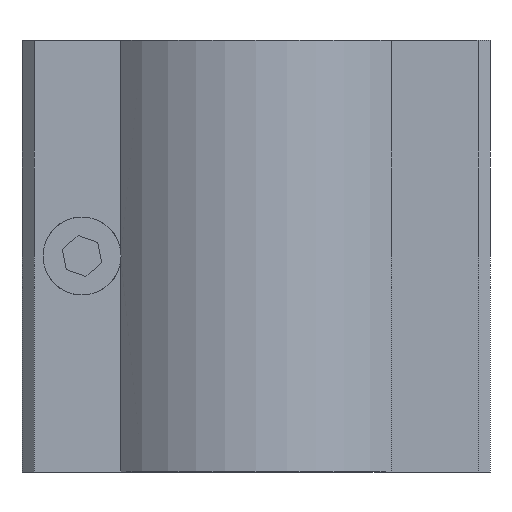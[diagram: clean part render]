
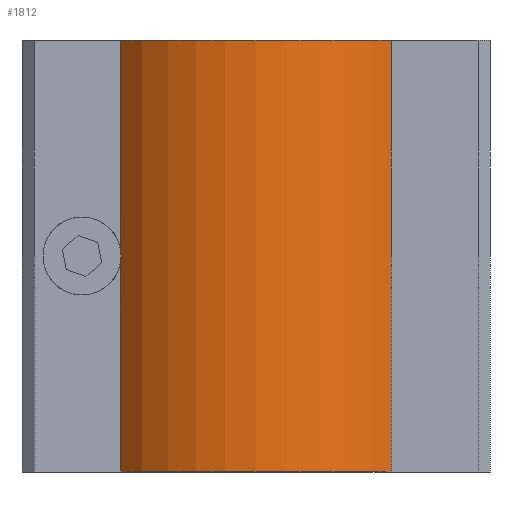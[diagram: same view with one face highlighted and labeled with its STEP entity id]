
A CAD part, front view. The second image highlights one B-rep face of the part: STEP entity #1812.
In plain terms, the highlighted cylindrical face has radius 29.5 mm (diameter 59 mm), a partial arc.
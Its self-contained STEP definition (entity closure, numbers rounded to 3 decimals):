
#679=CARTESIAN_POINT('',(-23.275,-14.802,31.072));
#680=VERTEX_POINT('',#679);
#688=CARTESIAN_POINT('',(-23.209,-14.88,32.));
#689=VERTEX_POINT('',#688);
#690=CARTESIAN_POINT('',(-23.209,-14.88,32.));
#691=CARTESIAN_POINT('',(-23.209,-14.88,31.693));
#692=CARTESIAN_POINT('',(-23.231,-14.854,31.381));
#693=CARTESIAN_POINT('',(-23.275,-14.802,31.072));
#694=B_SPLINE_CURVE_WITH_KNOTS('',3,(#690,#691,#692,#693),.UNSPECIFIED.,.F.,.U.,(4,4),(1.407,1.499),.UNSPECIFIED.);
#695=EDGE_CURVE('',#689,#680,#694,.T.);
#929=CARTESIAN_POINT('',(-23.275,-14.802,32.928));
#930=VERTEX_POINT('',#929);
#931=CARTESIAN_POINT('',(-23.275,-14.802,32.928));
#932=CARTESIAN_POINT('',(-23.231,-14.854,32.619));
#933=CARTESIAN_POINT('',(-23.209,-14.88,32.307));
#934=CARTESIAN_POINT('',(-23.209,-14.88,32.));
#935=B_SPLINE_CURVE_WITH_KNOTS('',3,(#931,#932,#933,#934),.UNSPECIFIED.,.F.,.U.,(4,4),(1.315,1.407),.UNSPECIFIED.);
#936=EDGE_CURVE('',#930,#689,#935,.T.);
#973=CARTESIAN_POINT('',(-23.275,-14.802,68.0));
#974=VERTEX_POINT('',#973);
#975=CARTESIAN_POINT('',(-23.275,-14.802,68.0));
#976=DIRECTION('',(0.0,0.0,-1.0));
#977=VECTOR('',#976,35.072);
#978=LINE('',#975,#977);
#979=EDGE_CURVE('',#974,#930,#978,.T.);
#997=CARTESIAN_POINT('',(-23.275,-14.802,-4.));
#998=VERTEX_POINT('',#997);
#1005=CARTESIAN_POINT('',(-23.275,-14.802,31.072));
#1006=DIRECTION('',(0.0,0.0,-1.0));
#1007=VECTOR('',#1006,35.072);
#1008=LINE('',#1005,#1007);
#1009=EDGE_CURVE('',#680,#998,#1008,.T.);
#1163=CARTESIAN_POINT('',(21.858,-14.802,68.0));
#1164=VERTEX_POINT('',#1163);
#1165=CARTESIAN_POINT('',(-0.709,4.198,68.0));
#1166=DIRECTION('',(0.0,0.0,-1.0));
#1167=DIRECTION('',(0.765,0.644,0.0));
#1168=AXIS2_PLACEMENT_3D('',#1165,#1166,#1167);
#1169=CIRCLE('',#1168,29.5);
#1170=EDGE_CURVE('',#1164,#974,#1169,.T.);
#1716=CARTESIAN_POINT('',(21.858,-14.802,-4.));
#1717=VERTEX_POINT('',#1716);
#1724=CARTESIAN_POINT('',(-0.709,4.198,-4.));
#1725=DIRECTION('',(0.0,0.0,1.0));
#1726=DIRECTION('',(0.765,0.644,0.0));
#1727=AXIS2_PLACEMENT_3D('',#1724,#1725,#1726);
#1728=CIRCLE('',#1727,29.5);
#1729=EDGE_CURVE('',#998,#1717,#1728,.T.);
#1787=CARTESIAN_POINT('',(21.858,-14.802,68.0));
#1788=DIRECTION('',(0.0,0.0,-1.0));
#1789=VECTOR('',#1788,72.0);
#1790=LINE('',#1787,#1789);
#1791=EDGE_CURVE('',#1164,#1717,#1790,.T.);
#1798=CARTESIAN_POINT('',(-0.709,4.198,32.0));
#1799=DIRECTION('',(0.0,0.0,1.0));
#1800=DIRECTION('',(0.765,0.644,0.0));
#1801=AXIS2_PLACEMENT_3D('',#1798,#1799,#1800);
#1802=CYLINDRICAL_SURFACE('',#1801,29.5);
#1803=ORIENTED_EDGE('',*,*,#936,.T.);
#1804=ORIENTED_EDGE('',*,*,#695,.T.);
#1805=ORIENTED_EDGE('',*,*,#1009,.T.);
#1806=ORIENTED_EDGE('',*,*,#1729,.T.);
#1807=ORIENTED_EDGE('',*,*,#1791,.F.);
#1808=ORIENTED_EDGE('',*,*,#1170,.T.);
#1809=ORIENTED_EDGE('',*,*,#979,.T.);
#1810=EDGE_LOOP('',(#1803,#1804,#1805,#1806,#1807,#1808,#1809));
#1811=FACE_OUTER_BOUND('',#1810,.T.);
#1812=ADVANCED_FACE('',(#1811),#1802,.T.);
